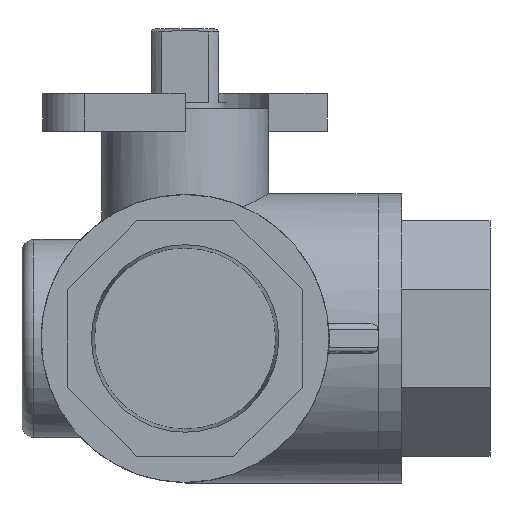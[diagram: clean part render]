
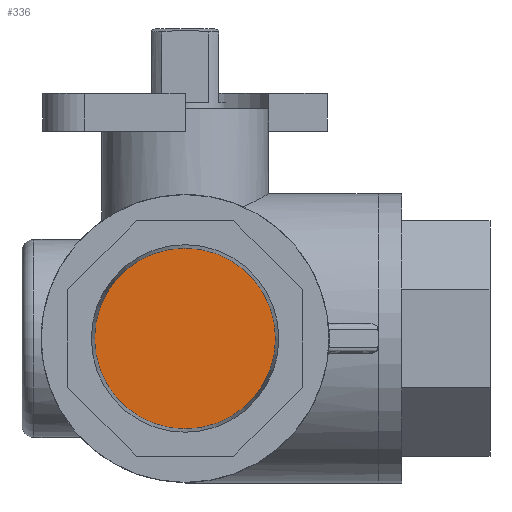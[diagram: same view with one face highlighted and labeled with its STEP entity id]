
A CAD part, left-side view. The second image highlights one B-rep face of the part: STEP entity #336.
In plain terms, the highlighted free-form (B-spline) face has degree [1, 1] with [2, 2] control points.
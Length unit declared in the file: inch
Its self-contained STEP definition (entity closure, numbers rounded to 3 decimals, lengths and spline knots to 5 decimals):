
#320=CARTESIAN_POINT('',(0.5533,0.47746,1.09746));
#321=CARTESIAN_POINT('',(0.5533,-0.47746,1.09746));
#322=CARTESIAN_POINT('',(0.5533,0.47746,0.14254));
#323=CARTESIAN_POINT('',(0.5533,-0.47746,0.14254));
#324=B_SPLINE_SURFACE_WITH_KNOTS('',1,1,((#320,#322),(#321,#323)),.UNSPECIFIED.,.F.,.F.,.U.,(2,2),(2,2),(0.0,0.95492),(0.0,0.95492),.UNSPECIFIED.);
#325=CARTESIAN_POINT('',(0.5533,0.47746,0.62));
#326=VERTEX_POINT('',#325);
#327=CARTESIAN_POINT('',(0.5533,0.0,0.62));
#328=DIRECTION('',(1.0,0.0,0.0));
#329=DIRECTION('',(0.0,1.0,0.0));
#330=AXIS2_PLACEMENT_3D('',#327,#328,#329);
#331=CIRCLE('',#330,0.47746);
#332=EDGE_CURVE('',#326,#326,#331,.T.);
#333=ORIENTED_EDGE('',*,*,#332,.F.);
#334=EDGE_LOOP('',(#333));
#335=FACE_OUTER_BOUND('',#334,.T.);
#336=ADVANCED_FACE('',(#335),#324,.F.);
